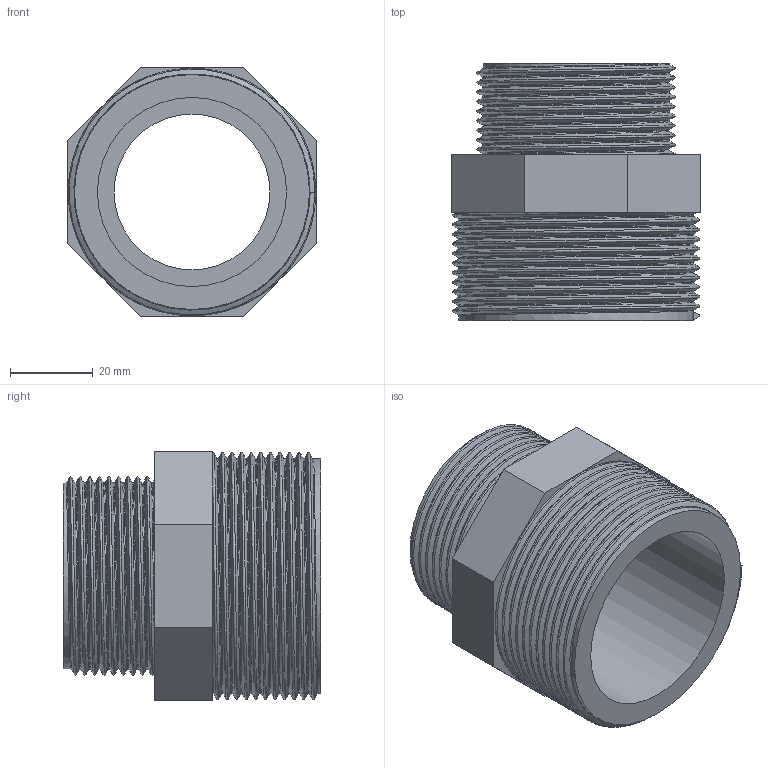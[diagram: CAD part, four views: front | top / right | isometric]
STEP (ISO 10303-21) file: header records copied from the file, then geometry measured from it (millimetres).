
FILE_DESCRIPTION(/* description */ ('PVC nipplo ridotto filettato BSP'),/* implementation_level */ '2;1');
FILE_NAME(/* name */ 'C:\Users\POLYPIPE\Desktop\DATASET INVENTOR\LIBRERIA EFFAST\RACCORDI 3DxWEB\RER\3D_RERNRE\3D_RERNRE063F.stp',/* time_stamp */ '2018-01-19T16:46:54+01:00',/* author */ ('POLYPIPE'),/* organization */ ('Polypipe Italia s.r.l.'),/* preprocessor_version */ 'ST-DEVELOPER v16.1',/* originating_system */ 'Autodesk Inventor 2016',/* authorisation */ '');
FILE_SCHEMA (('CONFIG_CONTROL_DESIGN'));
Length unit declared in the file: millimetre
Products named in the file (1): 3D_RERNRE
Bounding box: 60 x 62 x 60 mm (x, y, z)
Volume: 61546.4 mm3; surface area: 27768.2 mm2
Topology: 1 solids, 1 shells, 29 faces, 66 edges, 42 vertices
Faces by surface type: plane 15, bspline 10, cylinder 4
Full cylindrical faces by diameter (mm): 37.6 x1, 44.845 x1, 45.6 x1, 56.656 x1
Entity records: 8813 total; most frequent: CARTESIAN_POINT 8201, ORIENTED_EDGE 128, DIRECTION 94, EDGE_CURVE 64, VERTEX_POINT 42, EDGE_LOOP 36, AXIS2_PLACEMENT_3D 32, LINE 30
